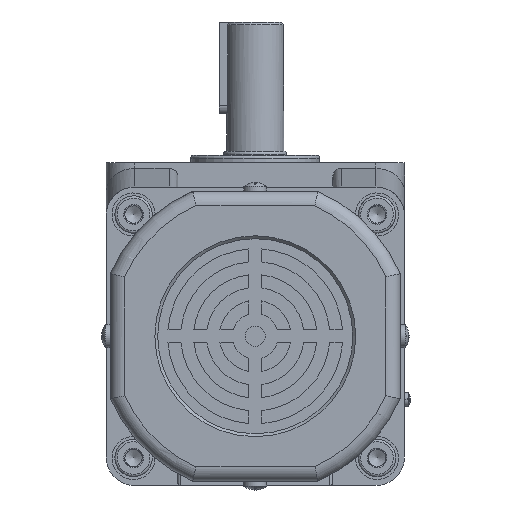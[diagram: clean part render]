
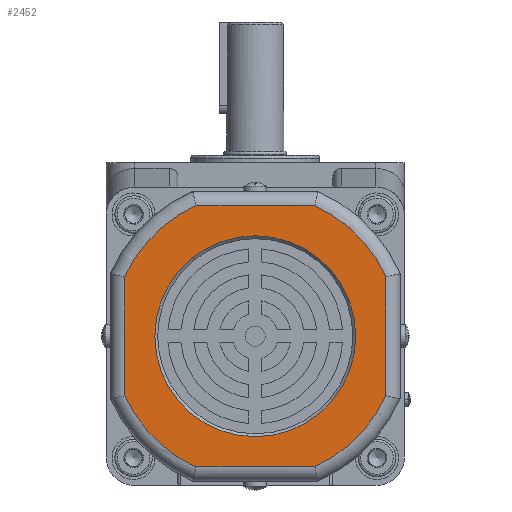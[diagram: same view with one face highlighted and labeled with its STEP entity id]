
A CAD part, front view. The second image highlights one B-rep face of the part: STEP entity #2452.
In plain terms, the highlighted planar face has unit normal (0, -1, 0).
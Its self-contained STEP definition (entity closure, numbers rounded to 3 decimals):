
#556=FACE_BOUND('',#4508,.T.);
#557=FACE_BOUND('',#4509,.T.);
#2452=ADVANCED_FACE('',(#556,#557),#3159,.F.);
#3159=PLANE('',#15269);
#4508=EDGE_LOOP('',(#6951,#6952,#6953,#6954,#6955,#6956,#6957,#6958));
#4509=EDGE_LOOP('',(#6959));
#6951=ORIENTED_EDGE('',*,*,#10879,.T.);
#6952=ORIENTED_EDGE('',*,*,#10874,.T.);
#6953=ORIENTED_EDGE('',*,*,#10881,.T.);
#6954=ORIENTED_EDGE('',*,*,#10887,.T.);
#6955=ORIENTED_EDGE('',*,*,#10893,.T.);
#6956=ORIENTED_EDGE('',*,*,#10895,.T.);
#6957=ORIENTED_EDGE('',*,*,#10891,.T.);
#6958=ORIENTED_EDGE('',*,*,#10885,.T.);
#6959=ORIENTED_EDGE('',*,*,#10872,.T.);
#9356=VERTEX_POINT('',#22972);
#9358=VERTEX_POINT('',#22987);
#9359=VERTEX_POINT('',#22989);
#9361=VERTEX_POINT('',#23017);
#9364=VERTEX_POINT('',#23035);
#9365=VERTEX_POINT('',#23051);
#9368=VERTEX_POINT('',#23069);
#9369=VERTEX_POINT('',#23085);
#9372=VERTEX_POINT('',#23103);
#10872=EDGE_CURVE('',#9356,#9356,#13984,.T.);
#10874=EDGE_CURVE('',#9359,#9358,#13985,.T.);
#10879=EDGE_CURVE('',#9361,#9359,#12295,.T.);
#10881=EDGE_CURVE('',#9358,#9364,#12296,.T.);
#10885=EDGE_CURVE('',#9365,#9361,#13988,.T.);
#10887=EDGE_CURVE('',#9364,#9368,#13989,.T.);
#10891=EDGE_CURVE('',#9369,#9365,#12299,.T.);
#10893=EDGE_CURVE('',#9368,#9372,#12300,.T.);
#10895=EDGE_CURVE('',#9372,#9369,#13991,.T.);
#12295=LINE('',#23020,#13271);
#12296=LINE('',#23036,#13272);
#12299=LINE('',#23088,#13275);
#12300=LINE('',#23104,#13276);
#13271=VECTOR('',#18001,1.);
#13272=VECTOR('',#18004,1.);
#13275=VECTOR('',#18021,1.);
#13276=VECTOR('',#18024,1.);
#13984=CIRCLE('',#15246,35.);
#13985=CIRCLE('',#15248,50.);
#13988=CIRCLE('',#15254,50.);
#13989=CIRCLE('',#15256,50.);
#13991=CIRCLE('',#15261,50.);
#15246=AXIS2_PLACEMENT_3D('',#22971,#17990,#17991);
#15248=AXIS2_PLACEMENT_3D('',#22988,#17994,#17995);
#15254=AXIS2_PLACEMENT_3D('',#23054,#18010,#18011);
#15256=AXIS2_PLACEMENT_3D('',#23070,#18014,#18015);
#15261=AXIS2_PLACEMENT_3D('',#23107,#18028,#18029);
#15269=AXIS2_PLACEMENT_3D('',#23127,#18048,#18049);
#17990=DIRECTION('',(0.,1.,0.));
#17991=DIRECTION('',(-1.,0.,0.));
#17994=DIRECTION('',(0.,-1.,0.));
#17995=DIRECTION('',(-1.,0.,0.));
#18001=DIRECTION('',(0.,0.,1.));
#18004=DIRECTION('',(-1.,0.,0.));
#18010=DIRECTION('',(0.,-1.,0.));
#18011=DIRECTION('',(-1.,0.,0.));
#18014=DIRECTION('',(0.,-1.,0.));
#18015=DIRECTION('',(-1.,0.,0.));
#18021=DIRECTION('',(1.,0.,0.));
#18024=DIRECTION('',(0.,0.,-1.));
#18028=DIRECTION('',(0.,-1.,0.));
#18029=DIRECTION('',(-1.,0.,0.));
#18048=DIRECTION('',(0.,1.,0.));
#18049=DIRECTION('',(-1.,0.,0.));
#22971=CARTESIAN_POINT('',(0.,-318.5,-60.5));
#22972=CARTESIAN_POINT('',(-35.,-318.5,-60.5));
#22987=CARTESIAN_POINT('',(20.73,-318.5,-15.));
#22988=CARTESIAN_POINT('',(0.,-318.5,-60.5));
#22989=CARTESIAN_POINT('',(45.5,-318.5,-39.77));
#23017=CARTESIAN_POINT('',(45.5,-318.5,-81.23));
#23020=CARTESIAN_POINT('',(45.5,-318.5,-38.711));
#23035=CARTESIAN_POINT('',(-20.73,-318.5,-15.));
#23036=CARTESIAN_POINT('',(-21.789,-318.5,-15.));
#23051=CARTESIAN_POINT('',(20.73,-318.5,-106.));
#23054=CARTESIAN_POINT('',(0.,-318.5,-60.5));
#23069=CARTESIAN_POINT('',(-45.5,-318.5,-39.77));
#23070=CARTESIAN_POINT('',(0.,-318.5,-60.5));
#23085=CARTESIAN_POINT('',(-20.73,-318.5,-106.));
#23088=CARTESIAN_POINT('',(21.789,-318.5,-106.));
#23103=CARTESIAN_POINT('',(-45.5,-318.5,-81.23));
#23104=CARTESIAN_POINT('',(-45.5,-318.5,-82.289));
#23107=CARTESIAN_POINT('',(0.,-318.5,-60.5));
#23127=CARTESIAN_POINT('',(0.,-318.5,-60.5));
